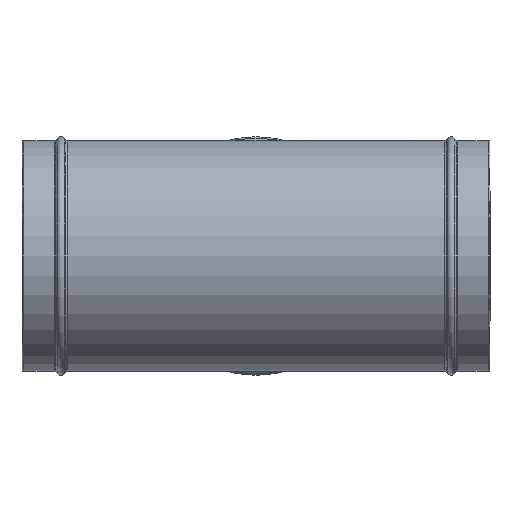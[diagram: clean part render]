
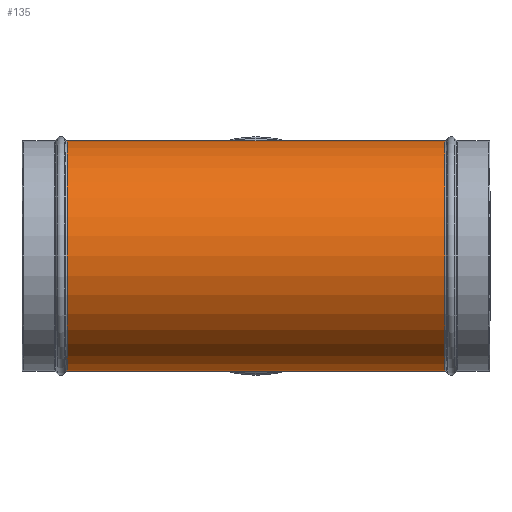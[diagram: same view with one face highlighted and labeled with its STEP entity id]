
A CAD part, front view. The second image highlights one B-rep face of the part: STEP entity #135.
In plain terms, the highlighted cylindrical face has radius 102.5 mm (diameter 205 mm), a full revolution.
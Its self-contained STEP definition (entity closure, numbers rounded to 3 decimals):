
#135=ADVANCED_FACE('',(#183,#184,#185),#160,.T.);
#160=CYLINDRICAL_SURFACE('',#472,102.5);
#165=ELLIPSE('',#470,155.925,102.5);
#166=ELLIPSE('',#471,155.925,102.5);
#183=FACE_BOUND('',#242,.T.);
#184=FACE_BOUND('',#243,.T.);
#185=FACE_BOUND('',#244,.T.);
#242=EDGE_LOOP('',(#305));
#243=EDGE_LOOP('',(#306));
#244=EDGE_LOOP('',(#307,#308));
#305=ORIENTED_EDGE('',*,*,#399,.T.);
#306=ORIENTED_EDGE('',*,*,#400,.T.);
#307=ORIENTED_EDGE('',*,*,#401,.T.);
#308=ORIENTED_EDGE('',*,*,#402,.T.);
#356=VERTEX_POINT('',#638);
#357=VERTEX_POINT('',#639);
#368=VERTEX_POINT('',#740);
#369=VERTEX_POINT('',#742);
#399=EDGE_CURVE('',#368,#368,#429,.T.);
#400=EDGE_CURVE('',#369,#369,#430,.T.);
#401=EDGE_CURVE('',#357,#356,#165,.T.);
#402=EDGE_CURVE('',#356,#357,#166,.T.);
#429=CIRCLE('',#468,102.5);
#430=CIRCLE('',#469,102.5);
#468=AXIS2_PLACEMENT_3D('',#739,#550,#551);
#469=AXIS2_PLACEMENT_3D('',#741,#552,#553);
#470=AXIS2_PLACEMENT_3D('',#743,#554,#555);
#471=AXIS2_PLACEMENT_3D('',#744,#556,#557);
#472=AXIS2_PLACEMENT_3D('',#745,#558,#559);
#550=DIRECTION('',(1.,0.,0.));
#551=DIRECTION('',(0.,-1.,0.));
#552=DIRECTION('',(-1.,0.,0.));
#553=DIRECTION('',(0.,-1.,0.));
#554=DIRECTION('',(-0.657,-0.754,0.));
#555=DIRECTION('',(-0.754,0.657,0.));
#556=DIRECTION('',(0.657,-0.754,0.));
#557=DIRECTION('',(-0.754,-0.657,0.));
#558=DIRECTION('',(-1.,0.,0.));
#559=DIRECTION('',(0.,-1.,0.));
#638=CARTESIAN_POINT('',(0.,0.,-102.5));
#639=CARTESIAN_POINT('',(0.,0.,102.5));
#739=CARTESIAN_POINT('',(-167.821,0.,0.));
#740=CARTESIAN_POINT('',(-167.821,-102.5,0.));
#741=CARTESIAN_POINT('',(167.872,0.,0.));
#742=CARTESIAN_POINT('',(167.872,-102.5,0.));
#743=CARTESIAN_POINT('',(0.,0.,0.));
#744=CARTESIAN_POINT('',(0.,0.,0.));
#745=CARTESIAN_POINT('',(208.,0.,0.));
